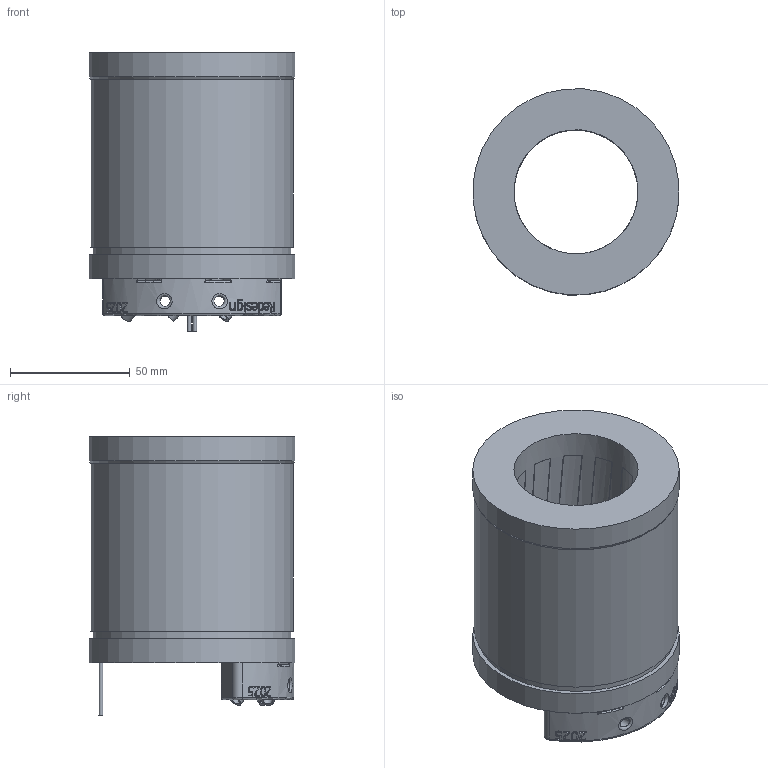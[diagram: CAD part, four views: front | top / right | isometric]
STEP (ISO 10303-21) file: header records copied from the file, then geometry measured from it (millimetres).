
FILE_DESCRIPTION(/* description */ ('stator casted TI085-052-070 Ver.A vereinfacht o. Gehäuse'),/* implementation_level */ '2;1');
FILE_NAME(/* name */ '154529.stp',/* time_stamp */ '2025-02-13T14:30:45+01:00',/* author */ ('Niklas.Fischer'),/* organization */ ('Formula Student'),/* preprocessor_version */ 'ST-DEVELOPER v20',/* originating_system */ 'Autodesk Inventor 2024',/* authorisation */ '');
FILE_SCHEMA (('AUTOMOTIVE_DESIGN { 1 0 10303 214 3 1 1 }'));
Length unit declared in the file: millimetre
Products named in the file (1): 154529
Bounding box: 85.69 x 85.69 x 115.9 mm (x, y, z)
Volume: 353482.7 mm3; surface area: 56997.3 mm2
Topology: 1 solids, 1 shells, 822 faces, 2372 edges, 1535 vertices
Faces by surface type: plane 349, bspline 269, cylinder 169, torus 22, cone 13
Full cylindrical faces by diameter (mm): 1.55 x2, 4 x6, 4.3 x5, 4.4 x3, 4.5 x3, 7 x3, 51.7 x1, 82.5 x1, 84.9 x1, 86 x2
Entity records: 35451 total; most frequent: CARTESIAN_POINT 14744, ORIENTED_EDGE 4730, DIRECTION 3340, EDGE_CURVE 2365, VERTEX_POINT 1538, AXIS2_PLACEMENT_3D 1170, LINE 1000, VECTOR 1000
